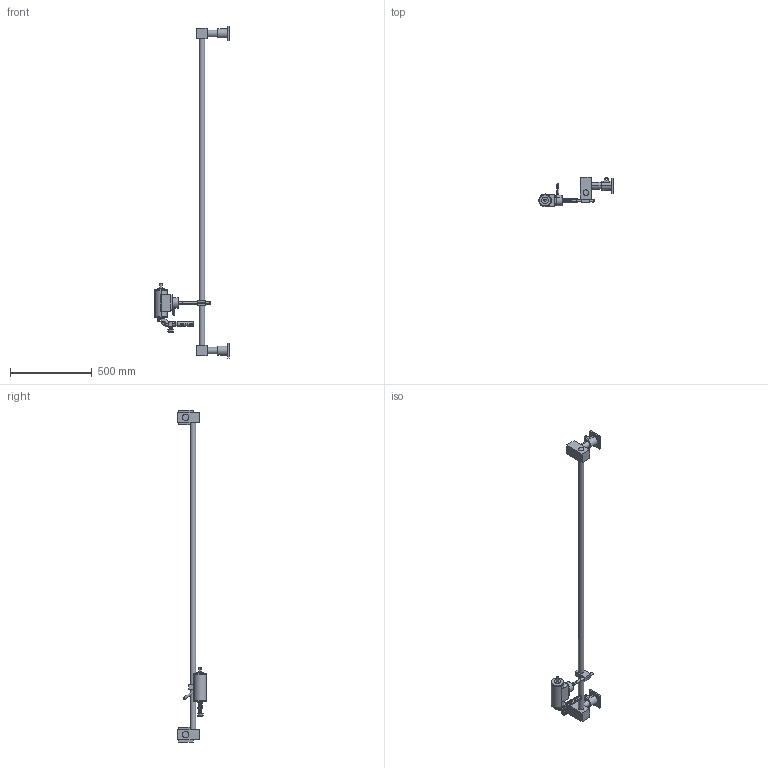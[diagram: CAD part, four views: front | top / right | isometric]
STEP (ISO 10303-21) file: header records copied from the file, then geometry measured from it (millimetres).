
FILE_DESCRIPTION (( 'STEP AP214' ), '1' );
FILE_NAME ('WSR6430-A-V.STEP', '2019-09-05T14:25:21', ( '' ), ( '' ), 'SwSTEP 2.0', 'SolidWorks 2018', '' );
FILE_SCHEMA (( 'AUTOMOTIVE_DESIGN' ));
Length unit declared in the file: millimetre
Products named in the file (25): Dämmmatte v3; Schalldämmhaube; DIN 912_DIN912 M6x20; Winkel V3; Kreuzklemme; Stecknippel PLM; KR261; PM64; Wandhalter; WSR Stativstange; WSR6430-A-V; Verbinder; Schalldämpfer Deckel Groß; Halterung; Halterung A; Überwurfmutter; Kugel; Pertinax Einsatz; Grundplatte; Futterstück; Schalli; Stellrad V3; V3; Doppelnippel PM64
Assembly tree (30 placements, depth 4):
  WSR6430-A-V
    PM64
      PM64
      Stecknippel PLM
      Winkel V3
      Schalldämmhaube
      Doppelnippel PM64
      V3
      Stellrad V3
      Schalli
      Futterstück
      Halterung A
        Grundplatte
        Pertinax Einsatz
        Kugel
        Überwurfmutter
      Halterung
      Schalldämpfer Deckel Groß
    Verbinder  x2
    WSR Stativstange
    Wandhalter  x2
    KR261
    Kreuzklemme  x2
    DIN 912_DIN912 M6x20  x4
    Dämmmatte v3
Bounding box: 455.92 x 177.35 x 2025.38 mm (x, y, z)
Volume: 4518325.4 mm3; surface area: 769229.1 mm2
Topology: 28 solids, 28 shells, 762 faces, 1816 edges, 1169 vertices
Faces by surface type: plane 380, cylinder 292, cone 56, torus 28, sphere 6
Entity records: 21345 total; most frequent: CARTESIAN_POINT 5294, DIRECTION 3177, ORIENTED_EDGE 2962, EDGE_CURVE 1481, AXIS2_PLACEMENT_3D 1209, VERTEX_POINT 954, LINE 759, VECTOR 759
